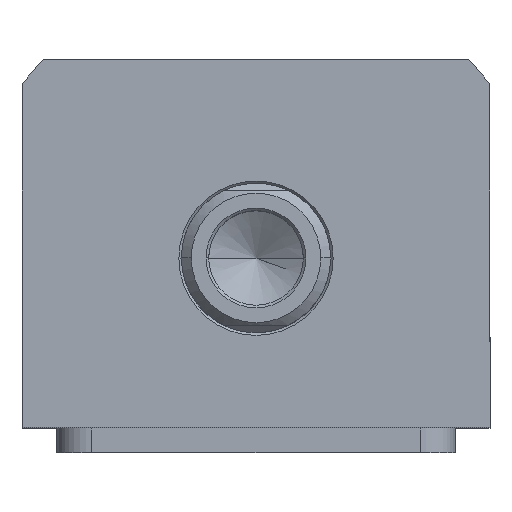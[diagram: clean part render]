
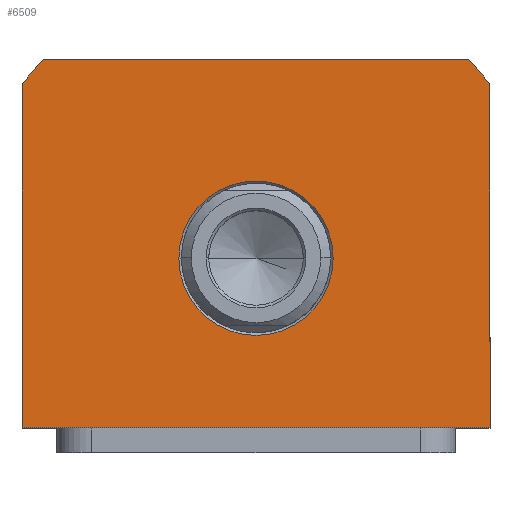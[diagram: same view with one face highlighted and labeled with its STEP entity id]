
A CAD part, top view. The second image highlights one B-rep face of the part: STEP entity #6509.
In plain terms, the highlighted planar face has unit normal (0, 0, 1).
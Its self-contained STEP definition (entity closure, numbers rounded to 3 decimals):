
#57 = EDGE_CURVE ( 'NONE', #10377, #8100, #6759, .T. ) ;
#100 = VECTOR ( 'NONE', #10815, 1000. ) ;
#655 = AXIS2_PLACEMENT_3D ( 'NONE', #5394, #760, #8249 ) ;
#760 = DIRECTION ( 'NONE',  ( 0., 0., 1. ) ) ;
#957 = DIRECTION ( 'NONE',  ( 0., -1., 0. ) ) ;
#1256 = CARTESIAN_POINT ( 'NONE',  ( 47., 34.832, 47.5 ) ) ;
#1294 = CARTESIAN_POINT ( 'NONE',  ( 0., 0., 47.5 ) ) ;
#1336 = CARTESIAN_POINT ( 'NONE',  ( -47., -34., 47.5 ) ) ;
#1477 = ORIENTED_EDGE ( 'NONE', *, *, #9587, .T. ) ;
#1522 = VECTOR ( 'NONE', #9556, 1000. ) ;
#1593 = CARTESIAN_POINT ( 'NONE',  ( 15.5, 0., 47.5 ) ) ;
#1781 = EDGE_CURVE ( 'NONE', #7673, #10560, #4437, .T. ) ;
#1844 = ORIENTED_EDGE ( 'NONE', *, *, #5764, .T. ) ;
#1851 = DIRECTION ( 'NONE',  ( 1., 0., 0. ) ) ;
#2018 = CARTESIAN_POINT ( 'NONE',  ( -47., -34., 47.5 ) ) ;
#2101 = VERTEX_POINT ( 'NONE', #7921 ) ;
#2552 = ORIENTED_EDGE ( 'NONE', *, *, #11165, .T. ) ;
#2802 = AXIS2_PLACEMENT_3D ( 'NONE', #6499, #9292, #10945 ) ;
#3119 = AXIS2_PLACEMENT_3D ( 'NONE', #11027, #10044, #1851 ) ;
#3430 = ORIENTED_EDGE ( 'NONE', *, *, #1781, .T. ) ;
#3440 = DIRECTION ( 'NONE',  ( 0., 0., 1. ) ) ;
#3475 = DIRECTION ( 'NONE',  ( 1., 0., 0. ) ) ;
#3582 = AXIS2_PLACEMENT_3D ( 'NONE', #1294, #3440, #3475 ) ;
#3937 = VERTEX_POINT ( 'NONE', #8366 ) ;
#4081 = VERTEX_POINT ( 'NONE', #4781 ) ;
#4125 = FACE_BOUND ( 'NONE', #10362, .T. ) ;
#4340 = LINE ( 'NONE', #1256, #7481 ) ;
#4346 = CARTESIAN_POINT ( 'NONE',  ( -42.688, 40., 47.5 ) ) ;
#4437 = CIRCLE ( 'NONE', #11526, 15.5 ) ;
#4468 = CIRCLE ( 'NONE', #3582, 58.5 ) ;
#4781 = CARTESIAN_POINT ( 'NONE',  ( 47., -34., 47.5 ) ) ;
#4868 = EDGE_CURVE ( 'NONE', #4081, #2101, #4340, .T. ) ;
#4931 = EDGE_CURVE ( 'NONE', #2101, #3937, #4468, .T. ) ;
#5029 = LINE ( 'NONE', #4346, #1522 ) ;
#5394 = CARTESIAN_POINT ( 'NONE',  ( 0., 0., 47.5 ) ) ;
#5764 = EDGE_CURVE ( 'NONE', #6709, #4081, #8038, .T. ) ;
#6499 = CARTESIAN_POINT ( 'NONE',  ( 0., 0., 47.5 ) ) ;
#6509 = ADVANCED_FACE ( 'NONE', ( #4125, #7985 ), #9203, .T. ) ;
#6709 = VERTEX_POINT ( 'NONE', #1336 ) ;
#6759 = CIRCLE ( 'NONE', #655, 58.5 ) ;
#7118 = ORIENTED_EDGE ( 'NONE', *, *, #4868, .T. ) ;
#7481 = VECTOR ( 'NONE', #7810, 1000. ) ;
#7673 = VERTEX_POINT ( 'NONE', #8944 ) ;
#7810 = DIRECTION ( 'NONE',  ( 0., 1., 0. ) ) ;
#7892 = ORIENTED_EDGE ( 'NONE', *, *, #9609, .T. ) ;
#7921 = CARTESIAN_POINT ( 'NONE',  ( 47., 34.832, 47.5 ) ) ;
#7985 = FACE_OUTER_BOUND ( 'NONE', #8650, .T. ) ;
#8038 = LINE ( 'NONE', #9906, #100 ) ;
#8100 = VERTEX_POINT ( 'NONE', #8653 ) ;
#8249 = DIRECTION ( 'NONE',  ( 1., 0., 0. ) ) ;
#8366 = CARTESIAN_POINT ( 'NONE',  ( 42.688, 40., 47.5 ) ) ;
#8650 = EDGE_LOOP ( 'NONE', ( #1844, #7118, #11847, #1477, #10125, #7892 ) ) ;
#8653 = CARTESIAN_POINT ( 'NONE',  ( -47., 34.832, 47.5 ) ) ;
#8944 = CARTESIAN_POINT ( 'NONE',  ( -15.5, 0., 47.5 ) ) ;
#9203 = PLANE ( 'NONE',  #3119 ) ;
#9258 = CIRCLE ( 'NONE', #2802, 15.5 ) ;
#9272 = VECTOR ( 'NONE', #957, 1000. ) ;
#9292 = DIRECTION ( 'NONE',  ( 0., 0., -1. ) ) ;
#9556 = DIRECTION ( 'NONE',  ( -1., 0., 0. ) ) ;
#9587 = EDGE_CURVE ( 'NONE', #3937, #10377, #5029, .T. ) ;
#9609 = EDGE_CURVE ( 'NONE', #8100, #6709, #11690, .T. ) ;
#9612 = CARTESIAN_POINT ( 'NONE',  ( -42.688, 40., 47.5 ) ) ;
#9906 = CARTESIAN_POINT ( 'NONE',  ( 47., -34., 47.5 ) ) ;
#9962 = CARTESIAN_POINT ( 'NONE',  ( 0., 0., 47.5 ) ) ;
#10044 = DIRECTION ( 'NONE',  ( 0., 0., 1. ) ) ;
#10125 = ORIENTED_EDGE ( 'NONE', *, *, #57, .T. ) ;
#10362 = EDGE_LOOP ( 'NONE', ( #2552, #3430 ) ) ;
#10377 = VERTEX_POINT ( 'NONE', #9612 ) ;
#10560 = VERTEX_POINT ( 'NONE', #1593 ) ;
#10815 = DIRECTION ( 'NONE',  ( 1., 0., 0. ) ) ;
#10945 = DIRECTION ( 'NONE',  ( 1., 0., 0. ) ) ;
#11027 = CARTESIAN_POINT ( 'NONE',  ( 0., 0., 47.5 ) ) ;
#11165 = EDGE_CURVE ( 'NONE', #10560, #7673, #9258, .T. ) ;
#11526 = AXIS2_PLACEMENT_3D ( 'NONE', #9962, #11675, #11746 ) ;
#11675 = DIRECTION ( 'NONE',  ( 0., 0., -1. ) ) ;
#11690 = LINE ( 'NONE', #2018, #9272 ) ;
#11746 = DIRECTION ( 'NONE',  ( 1., 0., 0. ) ) ;
#11847 = ORIENTED_EDGE ( 'NONE', *, *, #4931, .T. ) ;
